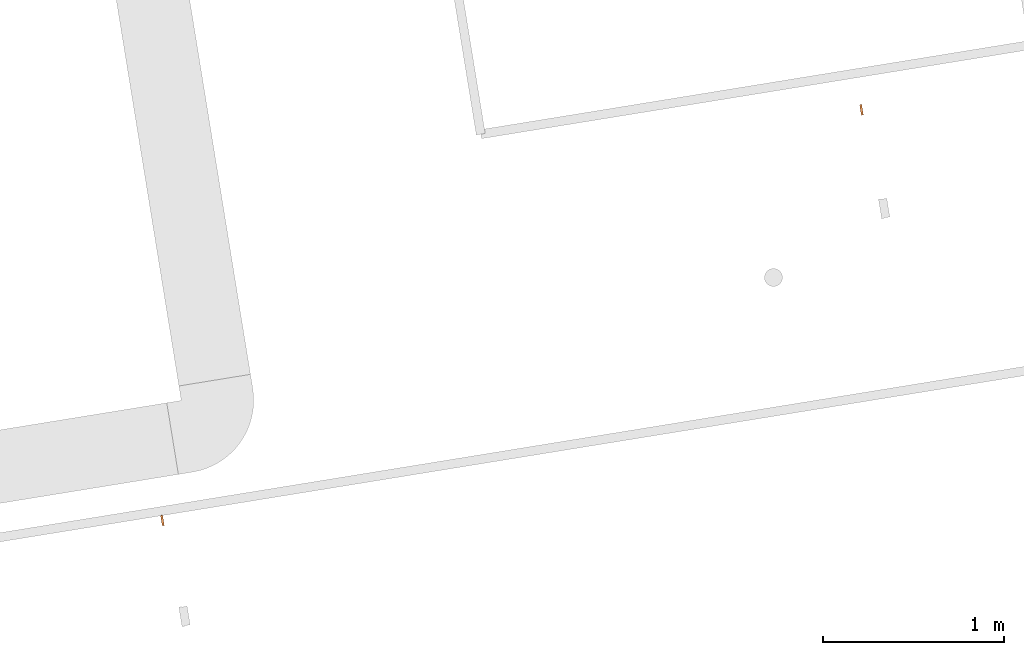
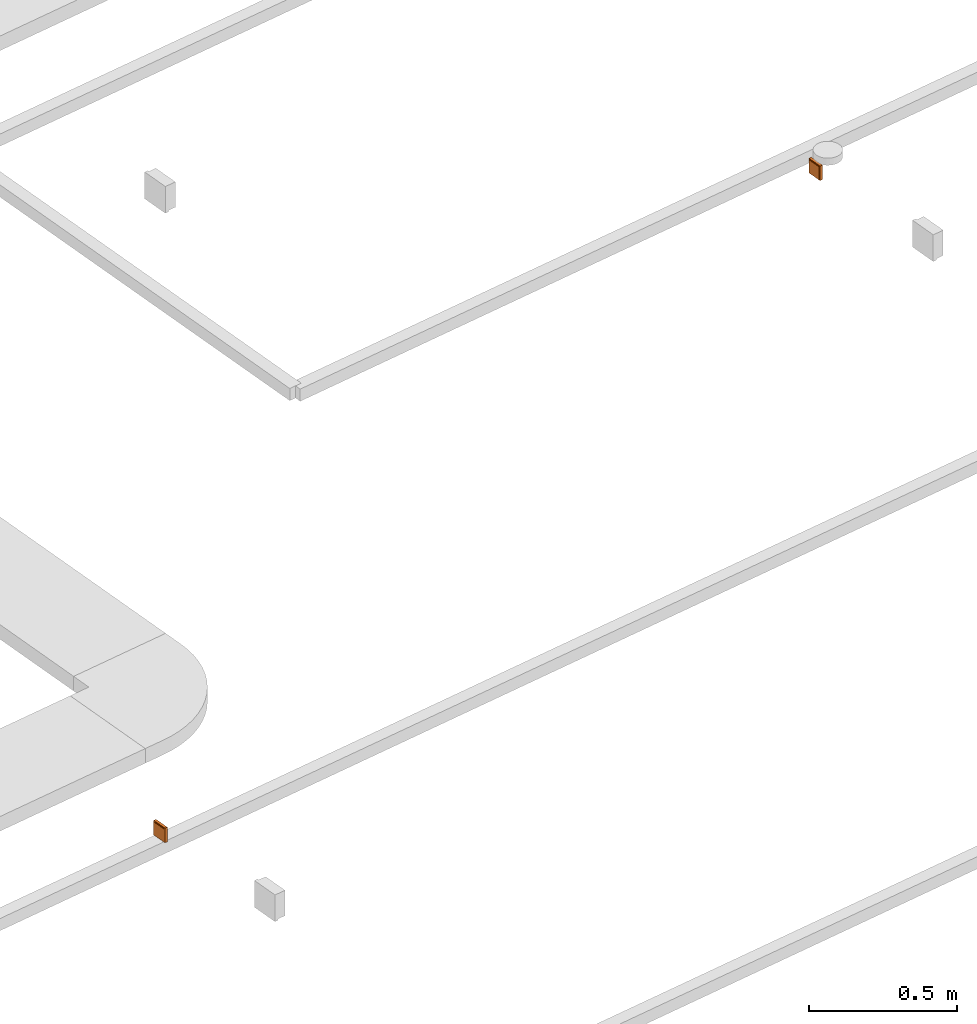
# One storey, part 19 of 20: 2 proxies.
"""IFC2X3 building model written with IfcOpenShell, lengths in millimetres."""

from ifc_helpers import new_model, entity, si_unit, converted_unit, derived_unit, direction, frame, frame_2d, origin, origin_with_axes, origin_2d_with_axis, place, context, subcontext, project, spatial, rectangle, extrude, source, transform, mapped, material, type_object, element, save


model = new_model("IFC2X3")

# Units and contexts
model_context = context("Model", 3, precision=0.01, world=origin(), true_north=direction((6.12323399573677e-17, 1.0)))
plan_context = context("Plan", 3, precision=1e-05, world=origin_with_axes())
body_context = subcontext(model_context, "Body", "Model", "MODEL_VIEW")
ifc_project = project(units=[converted_unit("PLANEANGLEUNIT", "DEGREE", entity("IfcPositiveLengthMeasure", 0.0174532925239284), si_unit("PLANEANGLEUNIT", "RADIAN"), dimensions=[0, 0, 0, 0, 0, 0, 0]), si_unit("AREAUNIT", "SQUARE_METRE"), si_unit("LENGTHUNIT", "METRE", prefix="MILLI"), si_unit("MASSUNIT", "GRAM", prefix="KILO"), si_unit("POWERUNIT", "WATT"), si_unit("PRESSUREUNIT", "PASCAL", prefix="KILO"), si_unit("FORCEUNIT", "NEWTON", prefix="KILO"), si_unit("ELECTRICVOLTAGEUNIT", "VOLT"), si_unit("ELECTRICCURRENTUNIT", "AMPERE"), si_unit("THERMODYNAMICTEMPERATUREUNIT", "DEGREE_CELSIUS"), si_unit("TIMEUNIT", "SECOND"), si_unit("VOLUMEUNIT", "CUBIC_METRE"), derived_unit("LINEARVELOCITYUNIT", [(si_unit("LENGTHUNIT", "METRE"), 1), (si_unit("TIMEUNIT", "SECOND"), -1)]), derived_unit("VOLUMETRICFLOWRATEUNIT", [(si_unit("VOLUMEUNIT", "CUBIC_METRE"), 1), (si_unit("TIMEUNIT", "SECOND"), -1)]), derived_unit("THERMALTRANSMITTANCEUNIT", [(si_unit("POWERUNIT", "WATT"), 1), (si_unit("THERMODYNAMICTEMPERATUREUNIT", "KELVIN"), -1), (si_unit("AREAUNIT", "SQUARE_METRE"), -1)]), derived_unit("SOUNDPRESSUREUNIT", [(si_unit("PRESSUREUNIT", "PASCAL"), 1)])], contexts=[model_context, plan_context])

# Site, building, storey
site_placement = place(None, frame((-0.219946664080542, 0.12226179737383, 0.0), z_axis=(0.0, 0.0, 1.0), x_axis=(-0.160236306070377, 0.987078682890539, 0.0)))
site = spatial("IfcSite", under=ifc_project, at=site_placement, Name="Default", CompositionType="ELEMENT")
building_placement = place(site_placement, origin_with_axes())
building = spatial("IfcBuilding", under=site, at=building_placement, CompositionType="ELEMENT")
storey_placement = place(building_placement, frame((0.0, 0.0, 50999.9999999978), z_axis=(0.0, 0.0, 1.0), x_axis=(1.0, 0.0, 0.0)))
storey = spatial("IfcBuildingStorey", under=building, at=storey_placement, Name="Nivå D", CompositionType="ELEMENT", Elevation=50999.9999999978)

# Proxies
ifc_material = material(Name="Material1")
building_element_proxy_type = type_object("IfcBuildingElementProxyType", Name="Bryter 1-polet påvegg", PredefinedType="NOTDEFINED", material=ifc_material)
shared_shape = source(origin(), body_context, "Body", "SweptSolid", [
    extrude(rectangle(XDim=2.0, YDim=51.9999999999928, at=frame_2d((-1.0547118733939e-15, 0.0), x_axis=(1.0, 0.0))), frame((0.0, 11.0, -26.0), z_axis=(0.0, 0.0, 1.0), x_axis=(0.0, -1.0, 0.0)), (0.0, 0.0, 1.0), 52.0000000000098),
    extrude(rectangle(XDim=10.0, YDim=60.0, at=origin_2d_with_axis()), frame((0.0, 5.0, -30.0), z_axis=(0.0, 0.0, 1.0), x_axis=(0.0, 1.0, 0.0)), (0.0, 0.0, 1.0), 60.0000000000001),
])
for number, where, z_axis, x_axis, name in (
    (1, (775861.459887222, -601310.302215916, 2800.0), (0.0, 0.0, 1.0), (1.0, 0.0, 0.0), "Bryter 1-polet påvegg"),
    (2, (774244.116073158, -597141.490028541, 2800.0), (0.0, 0.0, 1.0), (1.0, 0.0, 0.0), "Bryter 1-polet påvegg"),
):
    element("IfcBuildingElementProxy", number, at=place(storey_placement, frame(where, z_axis=z_axis, x_axis=x_axis)), inside=storey, type_object=building_element_proxy_type, material=ifc_material, Name=name, ObjectType="Bryter 1-polet påvegg", context=body_context, shape_type="MappedRepresentation", body=[
        mapped(shared_shape, transform((0.0, 0.0, 0.0), scale=1.0)),
    ])

save(model, "model.ifc")
